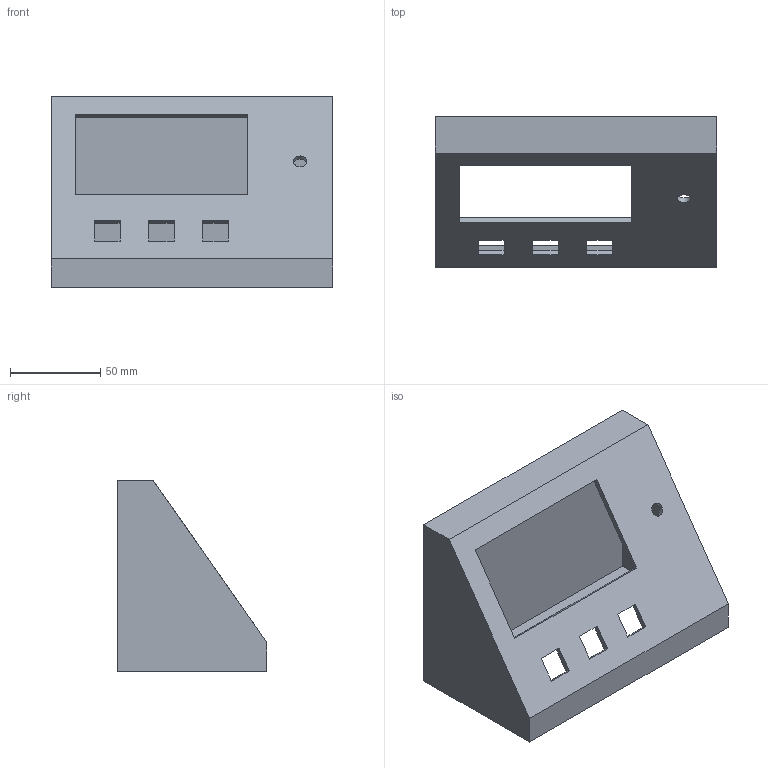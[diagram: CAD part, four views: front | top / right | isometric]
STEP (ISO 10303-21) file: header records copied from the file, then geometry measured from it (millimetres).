
FILE_DESCRIPTION(('Open CASCADE Model'),'2;1');
FILE_NAME('Open CASCADE Shape Model','2026-10-21T00:25:04',('Author'),( 'Open CASCADE'),'Open CASCADE STEP processor 7.9','Open CASCADE 7.9' ,'Unknown');
FILE_SCHEMA(('AUTOMOTIVE_DESIGN { 1 0 10303 214 1 1 1 1 }'));
Length unit declared in the file: millimetre
Products named in the file (1): Open CASCADE STEP translator 7.9 1
Bounding box: 156 x 83.09 x 106.11 mm (x, y, z)
Volume: 140281.1 mm3; surface area: 96220.5 mm2
Topology: 1 solids, 1 shells, 35 faces, 93 edges, 62 vertices
Faces by surface type: plane 34, cylinder 1
Full cylindrical faces by diameter (mm): 7.3 x1
Entity records: 2231 total; most frequent: CARTESIAN_POINT 463, DIRECTION 272, LINE 195, VECTOR 195, ORIENTED_EDGE 186, PCURVE 186, DEFINITIONAL_REPRESENTATION 186, EDGE_CURVE 93
